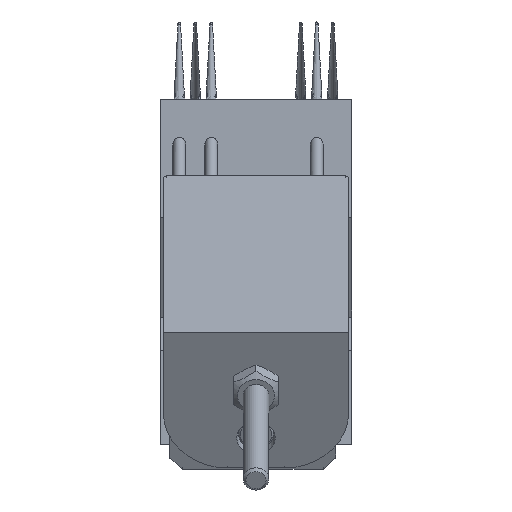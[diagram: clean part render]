
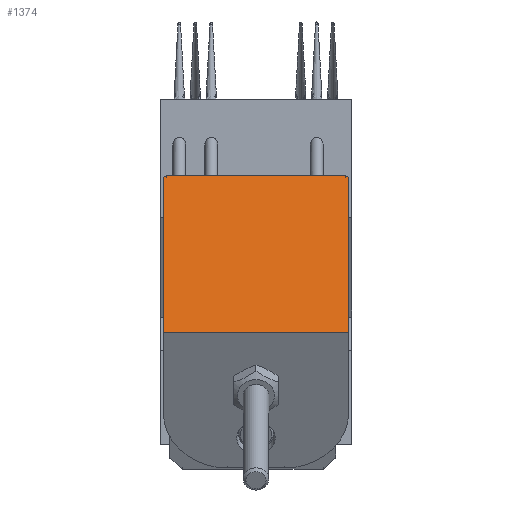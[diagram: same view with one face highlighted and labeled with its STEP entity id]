
A CAD part, left-side view. The second image highlights one B-rep face of the part: STEP entity #1374.
In plain terms, the highlighted planar face has unit normal (-0.5, 0, 0.866).
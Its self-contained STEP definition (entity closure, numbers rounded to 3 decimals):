
#1286=CARTESIAN_POINT('',(-16.798,0.5,41.794));
#1287=VERTEX_POINT('',#1286);
#1296=CARTESIAN_POINT('',(-58.8,0.5,17.544));
#1297=VERTEX_POINT('',#1296);
#1298=CARTESIAN_POINT('',(-58.8,0.5,17.544));
#1299=DIRECTION('',(0.866,0.,0.5));
#1300=VECTOR('',#1299,48.5);
#1301=LINE('',#1298,#1300);
#1302=EDGE_CURVE('',#1297,#1287,#1301,.T.);
#1328=CARTESIAN_POINT('',(-16.365,0.5,42.044));
#1329=DIRECTION('',(-0.5,0.,0.866));
#1330=DIRECTION('',(0.0,-1.0,0.0));
#1331=AXIS2_PLACEMENT_3D('',#1328,#1329,#1330);
#1332=PLANE('',#1331);
#1333=CARTESIAN_POINT('',(-16.798,29.5,41.794));
#1334=VERTEX_POINT('',#1333);
#1335=CARTESIAN_POINT('',(-16.365,29.,42.044));
#1336=VERTEX_POINT('',#1335);
#1337=CARTESIAN_POINT('',(-16.798,29.5,41.794));
#1338=DIRECTION('',(0.612,-0.707,0.354));
#1339=VECTOR('',#1338,0.707);
#1340=LINE('',#1337,#1339);
#1341=EDGE_CURVE('',#1334,#1336,#1340,.T.);
#1342=ORIENTED_EDGE('',*,*,#1341,.F.);
#1343=CARTESIAN_POINT('',(-58.8,29.5,17.544));
#1344=VERTEX_POINT('',#1343);
#1345=CARTESIAN_POINT('',(-16.798,29.5,41.794));
#1346=DIRECTION('',(-0.866,0.0,-0.5));
#1347=VECTOR('',#1346,48.5);
#1348=LINE('',#1345,#1347);
#1349=EDGE_CURVE('',#1334,#1344,#1348,.T.);
#1350=ORIENTED_EDGE('',*,*,#1349,.T.);
#1351=CARTESIAN_POINT('',(-58.8,0.5,17.544));
#1352=DIRECTION('',(0.0,1.0,0.0));
#1353=VECTOR('',#1352,29.);
#1354=LINE('',#1351,#1353);
#1355=EDGE_CURVE('',#1297,#1344,#1354,.T.);
#1356=ORIENTED_EDGE('',*,*,#1355,.F.);
#1357=ORIENTED_EDGE('',*,*,#1302,.T.);
#1358=CARTESIAN_POINT('',(-16.365,1.,42.044));
#1359=VERTEX_POINT('',#1358);
#1360=CARTESIAN_POINT('',(-16.365,1.,42.044));
#1361=DIRECTION('',(-0.612,-0.707,-0.354));
#1362=VECTOR('',#1361,0.707);
#1363=LINE('',#1360,#1362);
#1364=EDGE_CURVE('',#1359,#1287,#1363,.T.);
#1365=ORIENTED_EDGE('',*,*,#1364,.F.);
#1366=CARTESIAN_POINT('',(-16.365,1.,42.044));
#1367=DIRECTION('',(0.0,1.0,0.0));
#1368=VECTOR('',#1367,28.);
#1369=LINE('',#1366,#1368);
#1370=EDGE_CURVE('',#1359,#1336,#1369,.T.);
#1371=ORIENTED_EDGE('',*,*,#1370,.T.);
#1372=EDGE_LOOP('',(#1342,#1350,#1356,#1357,#1365,#1371));
#1373=FACE_OUTER_BOUND('',#1372,.T.);
#1374=ADVANCED_FACE('',(#1373),#1332,.T.);
